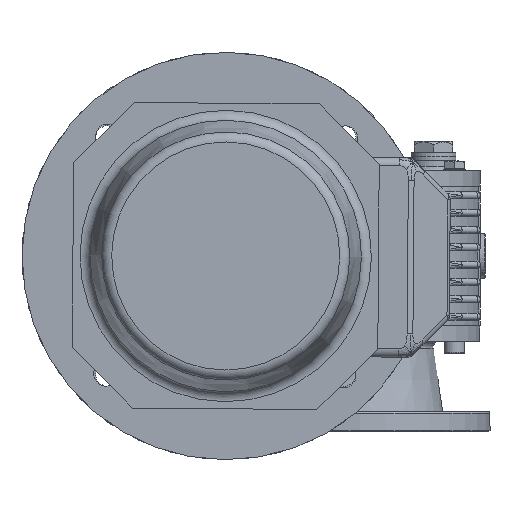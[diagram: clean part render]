
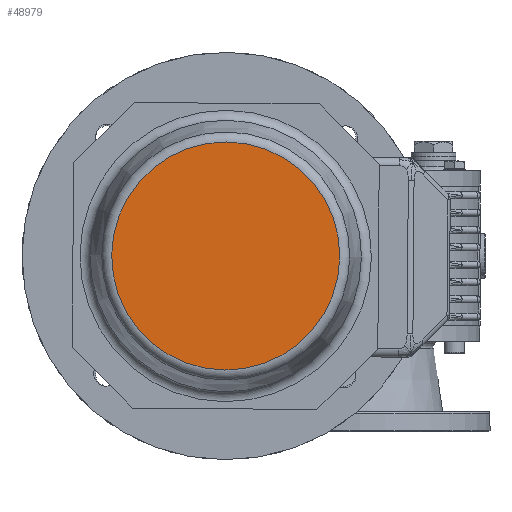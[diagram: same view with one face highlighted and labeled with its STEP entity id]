
A CAD part, left-side view. The second image highlights one B-rep face of the part: STEP entity #48979.
In plain terms, the highlighted planar face has unit normal (-1, 0, 0) as drawn and (1, 0, 0) by its records, which use the part's own axes.
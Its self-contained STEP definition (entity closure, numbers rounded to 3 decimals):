
#48956=CARTESIAN_POINT('',(265.0,0.0,55.983));
#48957=VERTEX_POINT('',#48956);
#48958=CARTESIAN_POINT('',(265.0,0.0,0.0));
#48959=DIRECTION('',(-1.0,0.0,0.0));
#48960=DIRECTION('',(0.0,0.0,-1.0));
#48961=AXIS2_PLACEMENT_3D('',#48958,#48959,#48960);
#48962=CIRCLE('',#48961,55.983);
#48963=EDGE_CURVE('',#48957,#48957,#48962,.T.);
#48971=CARTESIAN_POINT('',(265.0,0.0,30.0));
#48972=DIRECTION('',(1.0,0.0,0.0));
#48973=DIRECTION('',(0.0,0.0,-1.0));
#48974=AXIS2_PLACEMENT_3D('',#48971,#48972,#48973);
#48975=PLANE('',#48974);
#48976=ORIENTED_EDGE('',*,*,#48963,.F.);
#48977=EDGE_LOOP('',(#48976));
#48978=FACE_OUTER_BOUND('',#48977,.T.);
#48979=ADVANCED_FACE('',(#48978),#48975,.T.);
